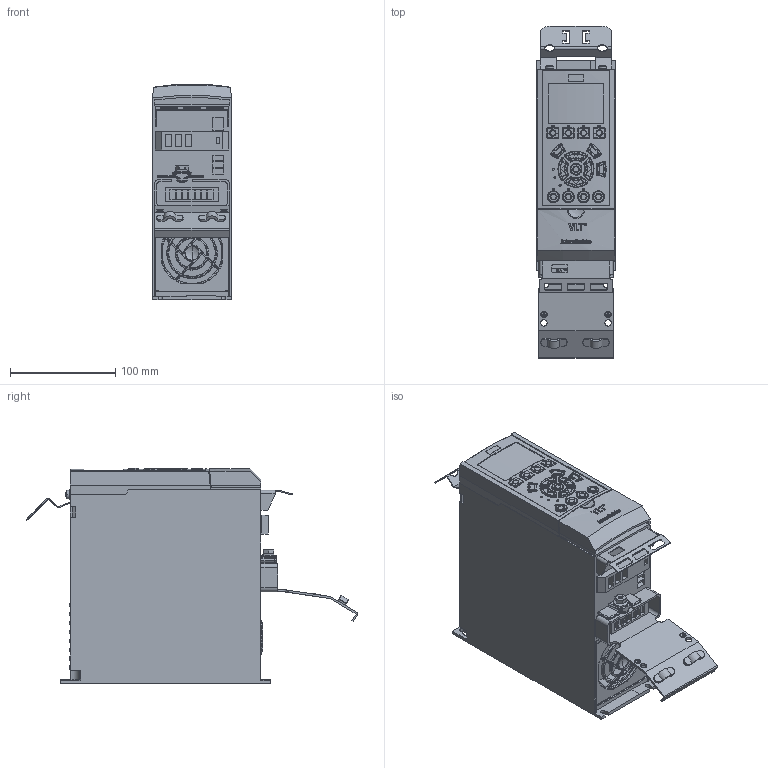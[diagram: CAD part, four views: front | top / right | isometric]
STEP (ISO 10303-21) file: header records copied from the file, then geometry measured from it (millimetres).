
FILE_DESCRIPTION((''),'2;1');
FILE_NAME('DANFOSS-FC300-A1-IP20-A-038','2007-03-01T',('janardhan.mankala'),('dan Drives A/S'),'PRO/ENGINEER BY PARAMETRIC TECHNOLOGY CORPORATION, 2006200','PRO/ENGINEER BY PARAMETRIC TECHNOLOGY CORPORATION, 2006200','');
FILE_SCHEMA(('CONFIG_CONTROL_DESIGN', 'GEOMETRIC_VALIDATION_PROPERTIES_MIM'));
Products named in the file (1): DANFOSS-FC300-A1-IP20-A-038
Bounding box: 75 x 315.63 x 204.97 mm (x, y, z)
Volume: 2714027.9 mm3; surface area: 190626.9 mm2
Topology: 1 solids, 17 shells, 2338 faces, 5984 edges, 3751 vertices
Faces by surface type: plane 749, cylinder 629, bspline 582, extrusion 182, torus 127, cone 46, sphere 23
Entity records: 137459 total; most frequent: CARTESIAN_POINT 49921, ORIENTED_EDGE 11948, DIRECTION 8192, PRESENTATION_STYLE_ASSIGNMENT 7883, STYLED_ITEM 5983, CURVE_STYLE 5982, EDGE_CURVE 5974, VERTEX_POINT 3751
